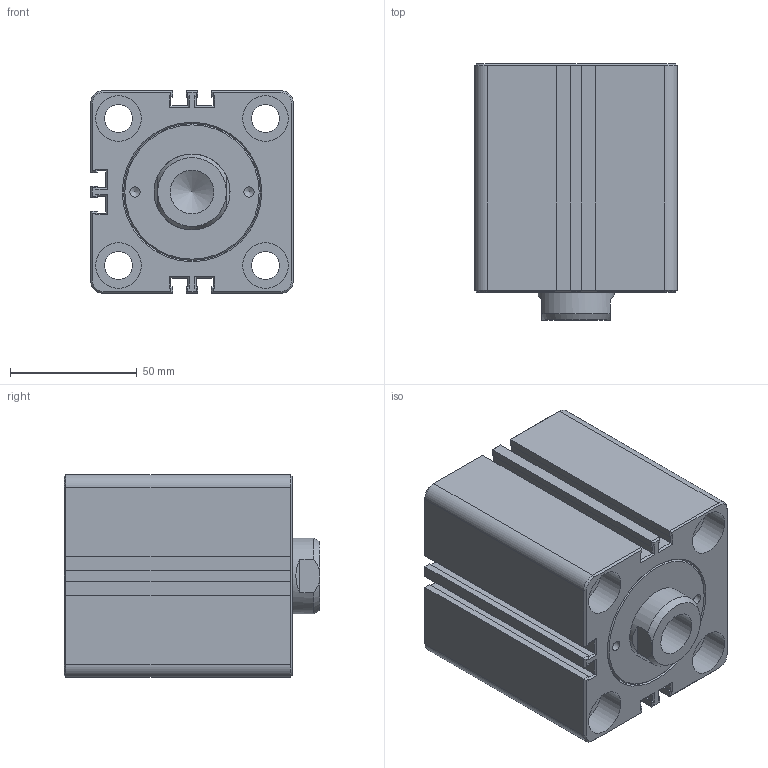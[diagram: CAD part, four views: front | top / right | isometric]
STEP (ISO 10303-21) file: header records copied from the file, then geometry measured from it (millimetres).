
FILE_DESCRIPTION(/* description */ ('Unknown'),/* implementation_level */ '2;1');
FILE_NAME(/* name */ 'HTM70-SDMB50X30N',/* time_stamp */ '2022-08-31T05:44:18+08:00',/* author */ ('Unknown'),/* organization */ ('Unknown'),/* preprocessor_version */ 'ST-DEVELOPER v16.7',/* originating_system */ 'DEX',/* authorisation */ $);
FILE_SCHEMA (('AUTOMOTIVE_DESIGN {1 0 10303 214 3 1 1}'));
Length unit declared in the file: millimetre
Products named in the file (1): HTM70-SDMB50X30N
Bounding box: 80 x 101 x 80 mm (x, y, z)
Volume: 504214.2 mm3; surface area: 67016.2 mm2
Topology: 1 solids, 1 shells, 285 faces, 663 edges, 400 vertices
Faces by surface type: plane 182, cone 40, bspline 36, cylinder 27
Full cylindrical faces by diameter (mm): 4.1 x2, 6 x3, 11 x4, 12 x2, 13 x2, 17.294 x1, 18 x8, 30 x1
Entity records: 9975 total; most frequent: CARTESIAN_POINT 1979, ORIENTED_EDGE 1218, DIRECTION 1116, EDGE_CURVE 609, LINE 402, VECTOR 402, VERTEX_POINT 386, AXIS2_PLACEMENT_3D 357
